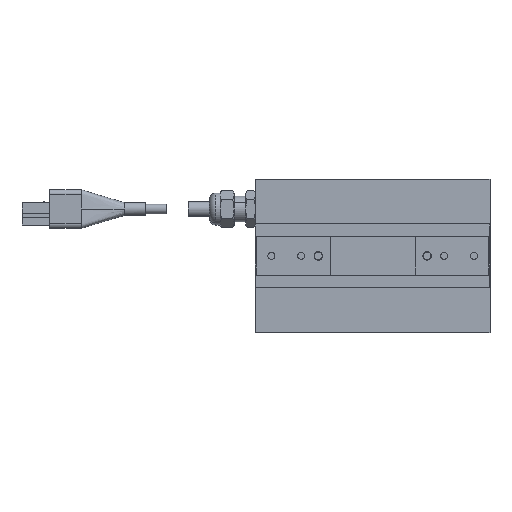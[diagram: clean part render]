
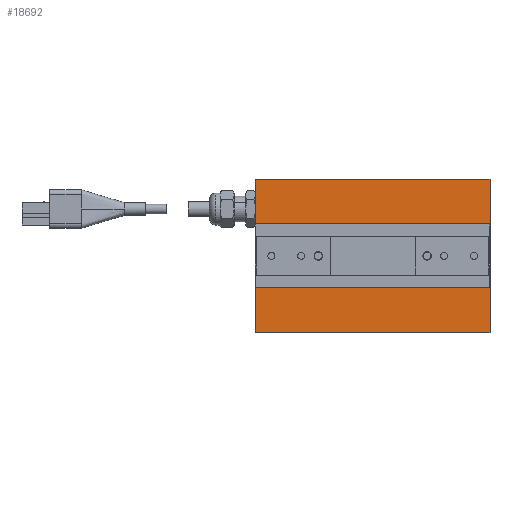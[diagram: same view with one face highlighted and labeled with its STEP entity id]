
A CAD part, top view. The second image highlights one B-rep face of the part: STEP entity #18692.
In plain terms, the highlighted planar face has unit normal (0, 0, 1) as drawn and (0, 0, -1) by its records, which use the part's own axes.
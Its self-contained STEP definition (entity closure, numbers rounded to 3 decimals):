
#46 = VERTEX_POINT ( 'NONE', #3403 ) ;
#103 = VERTEX_POINT ( 'NONE', #3557 ) ;
#108 = EDGE_CURVE ( 'NONE', #103, #46, #3591, .T. ) ;
#3403 = CARTESIAN_POINT ( 'NONE',  ( -55., 0., -20. ) ) ;
#3557 = CARTESIAN_POINT ( 'NONE',  ( -55., 72., -20. ) ) ;
#3588 = DIRECTION ( 'NONE',  ( 0., -1., 0. ) ) ;
#3589 = VECTOR ( 'NONE', #3588, 1000. ) ;
#3590 = CARTESIAN_POINT ( 'NONE',  ( -55., 72., -20. ) ) ;
#3591 = LINE ( 'NONE', #3590, #3589 ) ;
#17256 = FACE_BOUND ( 'NONE', #18713, .T. ) ;
#17257 = FACE_OUTER_BOUND ( 'NONE', #18681, .T. ) ;
#17264 = CARTESIAN_POINT ( 'NONE',  ( 55., 0., -20. ) ) ;
#17265 = DIRECTION ( 'NONE',  ( -1., 0., 0. ) ) ;
#17266 = VECTOR ( 'NONE', #17265, 1000. ) ;
#17267 = CARTESIAN_POINT ( 'NONE',  ( -55., 0., -20. ) ) ;
#17268 = LINE ( 'NONE', #17267, #17266 ) ;
#17286 = CARTESIAN_POINT ( 'NONE',  ( 54.95, 21.5, -20. ) ) ;
#17287 = DIRECTION ( 'NONE',  ( -1., 0., 0. ) ) ;
#17288 = VECTOR ( 'NONE', #17287, 1000. ) ;
#17289 = CARTESIAN_POINT ( 'NONE',  ( 54.95, 50.5, -20. ) ) ;
#17290 = LINE ( 'NONE', #17289, #17288 ) ;
#17291 = CARTESIAN_POINT ( 'NONE',  ( 54.95, 50.5, -20. ) ) ;
#17297 = DIRECTION ( 'NONE',  ( 1., 0., 0. ) ) ;
#17298 = DIRECTION ( 'NONE',  ( 0., 0., 1. ) ) ;
#17299 = CARTESIAN_POINT ( 'NONE',  ( -55., 72., -20. ) ) ;
#17300 = AXIS2_PLACEMENT_3D ( 'NONE', #17299, #17298, #17297 ) ;
#17301 = PLANE ( 'NONE',  #17300 ) ;
#17308 = LINE ( 'NONE', #17362, #17361 ) ;
#17309 = DIRECTION ( 'NONE',  ( 0., -1., 0. ) ) ;
#17310 = VECTOR ( 'NONE', #17309, 1000. ) ;
#17311 = CARTESIAN_POINT ( 'NONE',  ( 54.95, 50.5, -20. ) ) ;
#17312 = LINE ( 'NONE', #17311, #17310 ) ;
#17349 = CARTESIAN_POINT ( 'NONE',  ( -54.95, 21.5, -20. ) ) ;
#17350 = CARTESIAN_POINT ( 'NONE',  ( 55., 72., -20. ) ) ;
#17351 = DIRECTION ( 'NONE',  ( -1., 0., 0. ) ) ;
#17352 = VECTOR ( 'NONE', #17351, 1000. ) ;
#17353 = CARTESIAN_POINT ( 'NONE',  ( -55., 72., -20. ) ) ;
#17354 = LINE ( 'NONE', #17353, #17352 ) ;
#17360 = DIRECTION ( 'NONE',  ( 0., -1., 0. ) ) ;
#17361 = VECTOR ( 'NONE', #17360, 1000. ) ;
#17362 = CARTESIAN_POINT ( 'NONE',  ( 55., 72., -20. ) ) ;
#17380 = DIRECTION ( 'NONE',  ( 0., -1., 0. ) ) ;
#17381 = VECTOR ( 'NONE', #17380, 1000. ) ;
#17382 = CARTESIAN_POINT ( 'NONE',  ( -54.95, 50.5, -20. ) ) ;
#17388 = LINE ( 'NONE', #17382, #17381 ) ;
#17409 = DIRECTION ( 'NONE',  ( -1., 0., 0. ) ) ;
#17410 = VECTOR ( 'NONE', #17409, 1000. ) ;
#17411 = CARTESIAN_POINT ( 'NONE',  ( 54.95, 21.5, -20. ) ) ;
#17412 = LINE ( 'NONE', #17411, #17410 ) ;
#17442 = CARTESIAN_POINT ( 'NONE',  ( -54.95, 50.5, -20. ) ) ;
#18681 = EDGE_LOOP ( 'NONE', ( #18684, #18715, #18722, #18725 ) ) ;
#18683 = EDGE_CURVE ( 'NONE', #18688, #46, #17268, .T. ) ;
#18684 = ORIENTED_EDGE ( 'NONE', *, *, #18683, .T. ) ;
#18688 = VERTEX_POINT ( 'NONE', #17264 ) ;
#18692 = ADVANCED_FACE ( 'NONE', ( #17257, #17256 ), #17301, .F. ) ;
#18700 = VERTEX_POINT ( 'NONE', #17291 ) ;
#18701 = EDGE_CURVE ( 'NONE', #18700, #18752, #17290, .T. ) ;
#18702 = VERTEX_POINT ( 'NONE', #17286 ) ;
#18710 = ORIENTED_EDGE ( 'NONE', *, *, #18701, .T. ) ;
#18711 = ORIENTED_EDGE ( 'NONE', *, *, #18712, .F. ) ;
#18712 = EDGE_CURVE ( 'NONE', #18700, #18702, #17312, .T. ) ;
#18713 = EDGE_LOOP ( 'NONE', ( #18711, #18710, #18729, #18730 ) ) ;
#18714 = EDGE_CURVE ( 'NONE', #18724, #18688, #17308, .T. ) ;
#18715 = ORIENTED_EDGE ( 'NONE', *, *, #108, .F. ) ;
#18722 = ORIENTED_EDGE ( 'NONE', *, *, #18723, .F. ) ;
#18723 = EDGE_CURVE ( 'NONE', #18724, #103, #17354, .T. ) ;
#18724 = VERTEX_POINT ( 'NONE', #17350 ) ;
#18725 = ORIENTED_EDGE ( 'NONE', *, *, #18714, .T. ) ;
#18727 = VERTEX_POINT ( 'NONE', #17349 ) ;
#18729 = ORIENTED_EDGE ( 'NONE', *, *, #18733, .T. ) ;
#18730 = ORIENTED_EDGE ( 'NONE', *, *, #18737, .F. ) ;
#18733 = EDGE_CURVE ( 'NONE', #18752, #18727, #17388, .T. ) ;
#18737 = EDGE_CURVE ( 'NONE', #18702, #18727, #17412, .T. ) ;
#18752 = VERTEX_POINT ( 'NONE', #17442 ) ;
